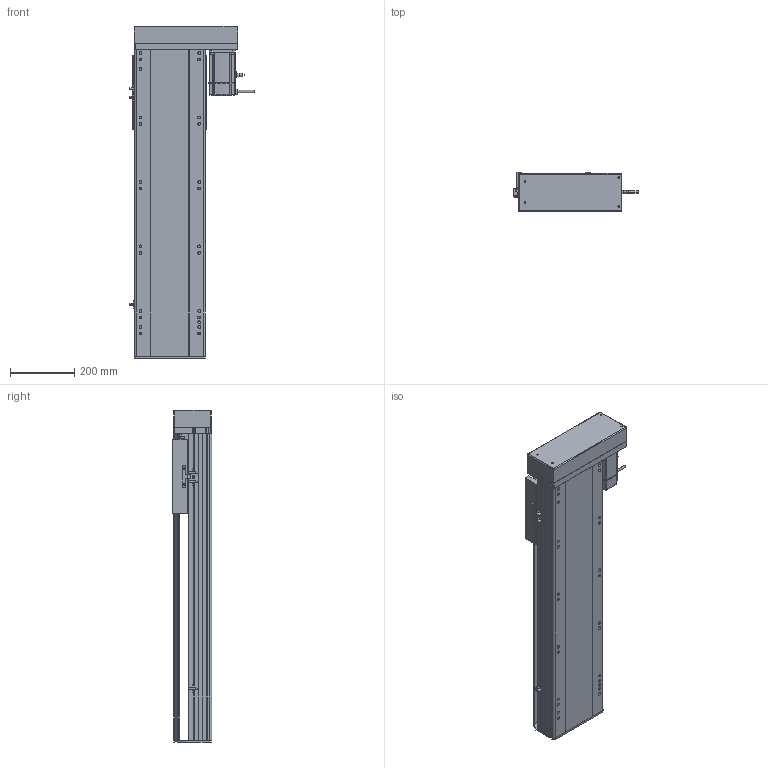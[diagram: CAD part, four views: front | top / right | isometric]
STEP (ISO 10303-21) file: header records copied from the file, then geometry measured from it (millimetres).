
FILE_DESCRIPTION (( 'STEP AP214' ), '1' );
FILE_NAME ('RTH22-XX-650-L-M75-C4.STEP', '2025-10-24T10:58:11', ( 'Microsoft' ), ( 'Microsoft' ), 'SwSTEP 2.0', 'SolidWorks 2018', '' );
FILE_SCHEMA (( 'AUTOMOTIVE_DESIGN' ));
Length unit declared in the file: millimetre
Products named in the file (10): N_RTH22-L-008-P75萇儂啣^RTH22-XX-XX-L-M75-C4; N_750W萇儂^RTH22-XX-XX-L-M75-C4; N_RTH22-GY-001耜裔^RTH22-XX-XX-L-M75-C4; N_RTH22-L-011菁釱^RTH22-XX-XX-L-M75-C4; N_RTH22-GY-013外置感应片^RTH22-XX-XX-L-M75-C4; N_RTH22-L-004-SFS25賑釱^RTH22-XX-XX-L-M75-C4; N_RTH22-L-007奻裔^RTH22-XX-XX-L-M75-C4; N_OMRON EE-SX672 传感器^RTH22-XX-XX-L-M75-C4; N_RTH22-L-018裔赽^RTH22-XX-XX-L-M75-C4; RTH22-XX-650-L-M75-C4
Assembly tree (11 placements, depth 2):
  RTH22-XX-650-L-M75-C4
    N_RTH22-L-011菁釱^RTH22-XX-XX-L-M75-C4
    N_RTH22-GY-001耜裔^RTH22-XX-XX-L-M75-C4
    N_750W萇儂^RTH22-XX-XX-L-M75-C4
    N_RTH22-L-008-P75萇儂啣^RTH22-XX-XX-L-M75-C4
    N_RTH22-L-007奻裔^RTH22-XX-XX-L-M75-C4
    N_RTH22-L-018裔赽^RTH22-XX-XX-L-M75-C4
    N_OMRON EE-SX672 传感器^RTH22-XX-XX-L-M75-C4  x3
    N_RTH22-GY-013外置感应片^RTH22-XX-XX-L-M75-C4
    N_RTH22-L-004-SFS25賑釱^RTH22-XX-XX-L-M75-C4
Bounding box: 384.7 x 122 x 1029.7 mm (x, y, z)
Volume: 14806959.7 mm3; surface area: 1710817 mm2
Topology: 11 solids, 11 shells, 1588 faces, 4329 edges, 2791 vertices
Faces by surface type: plane 793, cylinder 458, bspline 279, cone 58
Entity records: 39677 total; most frequent: CARTESIAN_POINT 12114, ORIENTED_EDGE 5634, DIRECTION 5307, EDGE_CURVE 2817, VERTEX_POINT 1827, AXIS2_PLACEMENT_3D 1780, VECTOR 1747, LINE 1747
